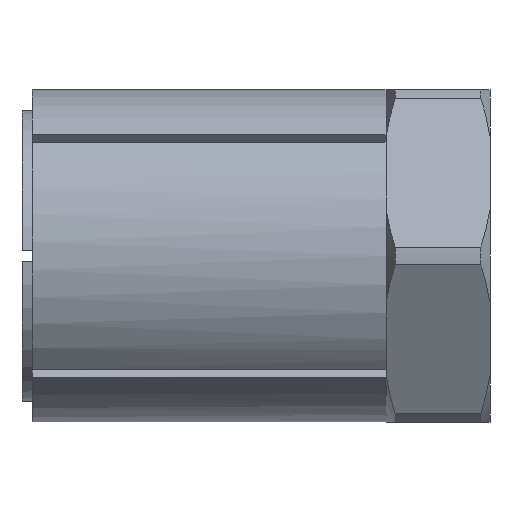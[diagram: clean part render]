
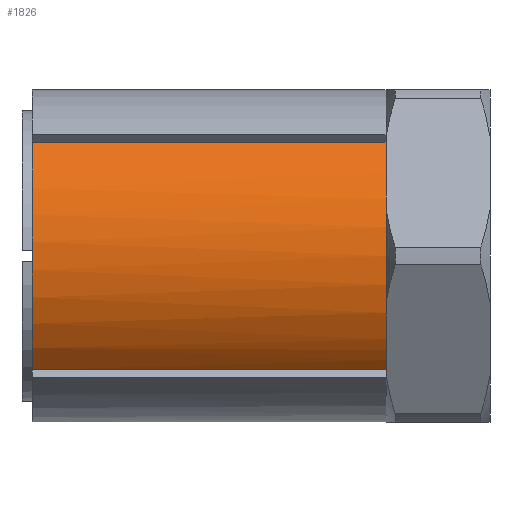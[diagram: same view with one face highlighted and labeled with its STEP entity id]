
A CAD part, front view. The second image highlights one B-rep face of the part: STEP entity #1826.
In plain terms, the highlighted cylindrical face has radius 8 mm (diameter 16 mm), a partial arc.
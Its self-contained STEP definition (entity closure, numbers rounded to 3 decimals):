
#404 = CIRCLE ( 'NONE', #2497, 8. ) ;
#468 = EDGE_CURVE ( 'NONE', #2423, #2424, #404, .T. ) ;
#586 = ORIENTED_EDGE ( 'NONE', *, *, #1865, .T. ) ;
#587 = ORIENTED_EDGE ( 'NONE', *, *, #1845, .T. ) ;
#588 = ORIENTED_EDGE ( 'NONE', *, *, #1847, .T. ) ;
#589 = ORIENTED_EDGE ( 'NONE', *, *, #468, .F. ) ;
#605 = ORIENTED_EDGE ( 'NONE', *, *, #1846, .T. ) ;
#608 = ORIENTED_EDGE ( 'NONE', *, *, #1848, .T. ) ;
#763 = EDGE_LOOP ( 'NONE', ( #605, #588, #589, #586, #587, #608 ) ) ;
#1027 = CARTESIAN_POINT ( 'NONE',  ( 0., 0., 0. ) ) ;
#1036 = DIRECTION ( 'NONE',  ( -1., 0., 0. ) ) ;
#1037 = DIRECTION ( 'NONE',  ( 0., 0., 1. ) ) ;
#1287 = DIRECTION ( 'NONE',  ( 0., 0., 1. ) ) ;
#1291 = DIRECTION ( 'NONE',  ( -1., 0., 0. ) ) ;
#1292 = CARTESIAN_POINT ( 'NONE',  ( 0., 0., 0. ) ) ;
#1353 = CARTESIAN_POINT ( 'NONE',  ( 17., 0., 0. ) ) ;
#1354 = CARTESIAN_POINT ( 'NONE',  ( 17., 0., 0. ) ) ;
#1355 = DIRECTION ( 'NONE',  ( -1., 0., 0. ) ) ;
#1356 = DIRECTION ( 'NONE',  ( 0., 0., 1. ) ) ;
#1357 = CARTESIAN_POINT ( 'NONE',  ( 17., 0., 0. ) ) ;
#1359 = DIRECTION ( 'NONE',  ( -1., 0., 0. ) ) ;
#1360 = DIRECTION ( 'NONE',  ( 0., 0., 1. ) ) ;
#1361 = CARTESIAN_POINT ( 'NONE',  ( 0., -5.831, 5.477 ) ) ;
#1362 = DIRECTION ( 'NONE',  ( -1., 0., 0. ) ) ;
#1363 = DIRECTION ( 'NONE',  ( -1., 0., 0. ) ) ;
#1364 = DIRECTION ( 'NONE',  ( 0., 0., 1. ) ) ;
#1434 = CARTESIAN_POINT ( 'NONE',  ( 0., -5.831, -5.477 ) ) ;
#1435 = DIRECTION ( 'NONE',  ( 1., 0., 0. ) ) ;
#1563 = CARTESIAN_POINT ( 'NONE',  ( 17., -6.928, -4. ) ) ;
#1564 = CARTESIAN_POINT ( 'NONE',  ( 17., -5.831, -5.477 ) ) ;
#1565 = CARTESIAN_POINT ( 'NONE',  ( 0., -5.831, -5.477 ) ) ;
#1566 = CARTESIAN_POINT ( 'NONE',  ( 0., -5.831, 5.477 ) ) ;
#1567 = CARTESIAN_POINT ( 'NONE',  ( 17., -5.831, 5.477 ) ) ;
#1568 = CARTESIAN_POINT ( 'NONE',  ( 17., -6.928, 4. ) ) ;
#1826 = ADVANCED_FACE ( 'NONE', ( #2722 ), #2731, .T. ) ;
#1845 = EDGE_CURVE ( 'NONE', #2422, #2421, #2760, .T. ) ;
#1846 = EDGE_CURVE ( 'NONE', #2426, #2425, #2761, .T. ) ;
#1847 = EDGE_CURVE ( 'NONE', #2425, #2424, #2759, .T. ) ;
#1848 = EDGE_CURVE ( 'NONE', #2421, #2426, #2762, .T. ) ;
#1865 = EDGE_CURVE ( 'NONE', #2423, #2422, #2764, .T. ) ;
#2421 = VERTEX_POINT ( 'NONE', #1563 ) ;
#2422 = VERTEX_POINT ( 'NONE', #1564 ) ;
#2423 = VERTEX_POINT ( 'NONE', #1565 ) ;
#2424 = VERTEX_POINT ( 'NONE', #1566 ) ;
#2425 = VERTEX_POINT ( 'NONE', #1567 ) ;
#2426 = VERTEX_POINT ( 'NONE', #1568 ) ;
#2497 = AXIS2_PLACEMENT_3D ( 'NONE', #1027, #1036, #1037 ) ;
#2508 = AXIS2_PLACEMENT_3D ( 'NONE', #1353, #1355, #1356 ) ;
#2577 = AXIS2_PLACEMENT_3D ( 'NONE', #1292, #1291, #1287 ) ;
#2580 = AXIS2_PLACEMENT_3D ( 'NONE', #1357, #1359, #1360 ) ;
#2596 = AXIS2_PLACEMENT_3D ( 'NONE', #1354, #1363, #1364 ) ;
#2722 = FACE_OUTER_BOUND ( 'NONE', #763, .T. ) ;
#2731 = CYLINDRICAL_SURFACE ( 'NONE', #2577, 8. ) ;
#2756 = VECTOR ( 'NONE', #1362, 1000. ) ;
#2759 = LINE ( 'NONE', #1361, #2756 ) ;
#2760 = CIRCLE ( 'NONE', #2508, 8. ) ;
#2761 = CIRCLE ( 'NONE', #2580, 8. ) ;
#2762 = CIRCLE ( 'NONE', #2596, 8. ) ;
#2764 = LINE ( 'NONE', #1434, #2775 ) ;
#2775 = VECTOR ( 'NONE', #1435, 1000. ) ;
